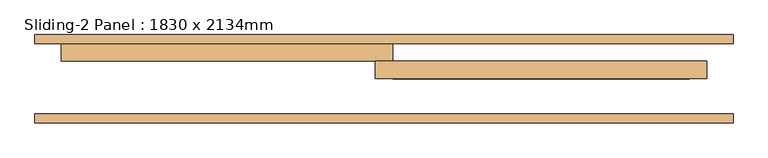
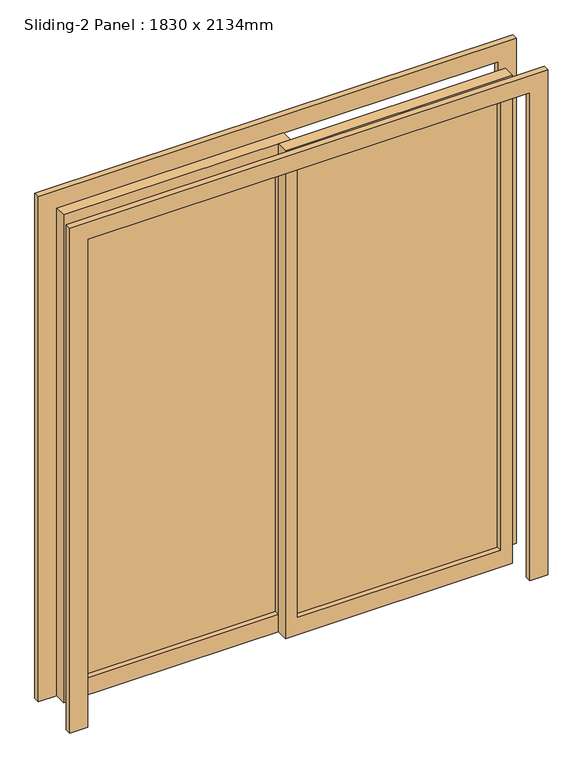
"""IFC4 building model written with IfcOpenShell, lengths in millimetres: door geometry, Sliding-2 Panel : 1830 x 2134mm."""

from ifc_helpers import new_model, si_unit, frame, origin, place, context, project, spatial, polyline, outline, extrude, source, transform, mapped, element, save


def sliding_2_panel_1830_x_2134mm_cc41b145(model_context):
    return source(origin(), model_context, "Body", "SweptSolid", [
        extrude(outline(polyline([(25.4, 155.175), (865.0, 155.175), (865.0, 148.825), (25.4, 148.825), (25.4, 155.175)])), frame((0.0, 0.0, 75.0), z_axis=(0.0, 0.0, 1.0), x_axis=(1.0, 0.0, 0.0)), (0.0, 0.0, 1.0), 1984.0),
        extrude(outline(polyline([(2134.0, -25.4), (0.0, -25.4), (0.0, 915.0), (2134.0, 915.0), (2134.0, -25.4)]), holes=[polyline([(2059.0, 24.6), (2059.0, 865.0), (75.0, 865.0), (75.0, 24.6), (2059.0, 24.6)])]), frame((0.0, 127.0, 0.0), z_axis=(0.0, 1.0, 0.0), x_axis=(0.0, 0.0, 1.0)), (0.0, 0.0, 1.0), 50.0),
        extrude(outline(polyline([(-865.0, 205.175), (-24.6, 205.175), (-24.6, 198.825), (-865.0, 198.825), (-865.0, 205.175)])), frame((0.0, 0.0, 75.0), z_axis=(0.0, 0.0, 1.0), x_axis=(1.0, 0.0, 0.0)), (0.0, 0.0, 1.0), 1984.0),
        extrude(outline(polyline([(2134.0, 25.4), (2134.0, -915.0), (0.0, -915.0), (0.0, 25.4), (2134.0, 25.4)]), holes=[polyline([(2059.0, -24.6), (75.0, -24.6), (75.0, -865.0), (2059.0, -865.0), (2059.0, -24.6)])]), frame((0.0, 177.0, 0.0), z_axis=(0.0, 1.0, 0.0), x_axis=(0.0, 0.0, 1.0)), (0.0, 0.0, 1.0), 50.0),
        extrude(outline(polyline([(0.0, -990.0), (0.0, -915.0), (2134.0, -915.0), (2134.0, 915.0), (0.0, 915.0), (0.0, 990.0), (2209.0, 990.0), (2209.0, -990.0), (0.0, -990.0)])), frame((0.0, 2.0, 0.0), z_axis=(0.0, 1.0, 0.0), x_axis=(0.0, 0.0, 1.0)), (0.0, 0.0, 1.0), 25.0),
        extrude(outline(polyline([(0.0, 990.0), (2209.0, 990.0), (2209.0, -990.0), (0.0, -990.0), (0.0, -915.0), (2134.0, -915.0), (2134.0, 915.0), (0.0, 915.0), (0.0, 990.0)])), frame((0.0, 227.0, 0.0), z_axis=(0.0, 1.0, 0.0), x_axis=(0.0, 0.0, 1.0)), (0.0, 0.0, 1.0), 25.0),
    ])


if __name__ == "__main__":
    model = new_model("IFC4")
    model_context = context("Model", 3, world=origin())
    ifc_project = project(units=[si_unit("LENGTHUNIT", "METRE", prefix="MILLI")], contexts=[model_context])
    site = spatial("IfcSite", under=ifc_project)
    building = spatial("IfcBuilding", under=site)
    placement = place(None, origin())
    sliding_2_panel_1830_x_2134mm_shape = sliding_2_panel_1830_x_2134mm_cc41b145(model_context)
    element("IfcDoor", 1, ObjectType="Sliding-2 Panel : 1830 x 2134mm", at=placement, inside=building, context=model_context, shape_type="MappedRepresentation", body=[
        mapped(sliding_2_panel_1830_x_2134mm_shape, transform((0.0, 0.0, 0.0), x_axis=(1.0, 0.0, 0.0), y_axis=(0.0, 1.0, 0.0), z_axis=(0.0, 0.0, 1.0))),
    ])
    save(model, "model.ifc")
